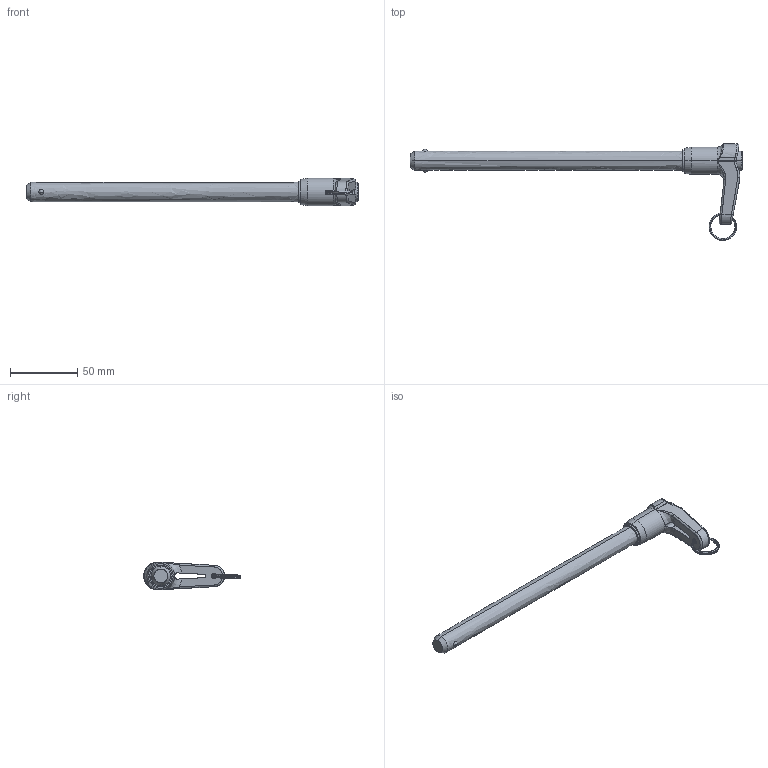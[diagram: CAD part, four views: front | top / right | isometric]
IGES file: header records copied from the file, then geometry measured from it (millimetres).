
Start section: SolidWorks IGES file using analytic representation for surfaces
Global section: file name: C:\Documents and Settings\IANO\My Documents\Wix and Auto CAD Work\CAD Models\Parametric Models\Wix Models\30000\33620_v2\33620_v2_20160606_IGES\33620.G075.igs; native system: SolidWorks 2009; preprocessor: SolidWorks 2009; author: IANO; date: 160615.130234; units: inch
Bounding box: 246.13 x 71.69 x 20.32 mm (x, y, z)
Surface area: 18808.8 mm2 (no closed solid volume)
Topology: 0 solids, 0 shells, 83 faces, 1227 edges, 1225 vertices
Faces by surface type: bspline 53, revolution 30
